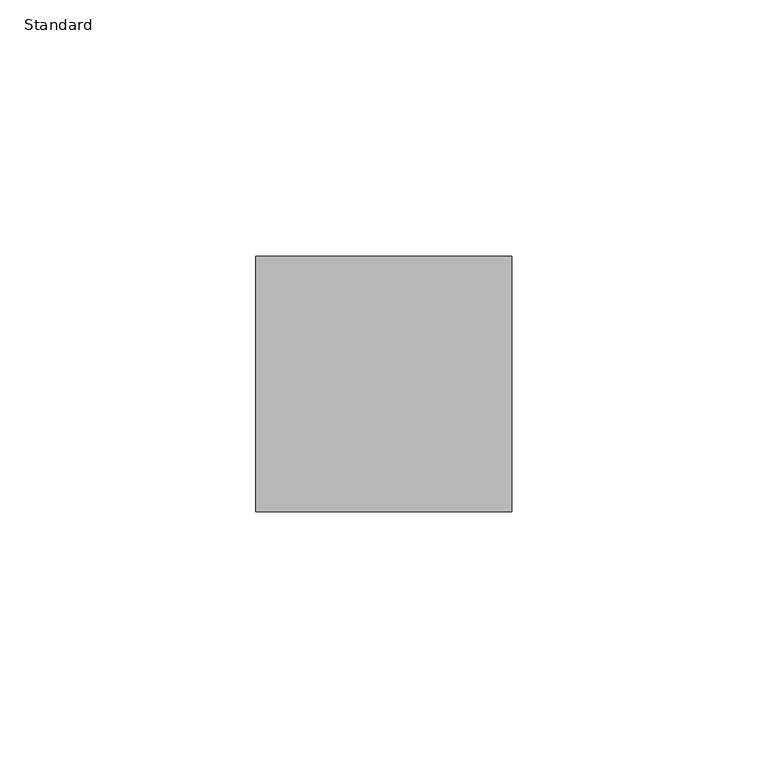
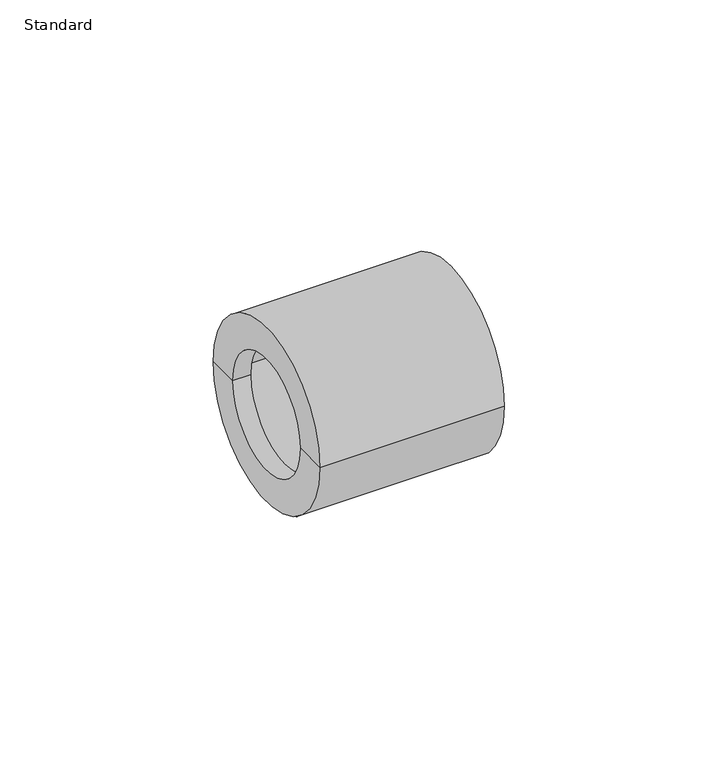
"""IFC4 building model written with IfcOpenShell, lengths in millimetres: pipe fitting geometry, Durapipe_PipeFitting_PVC_ReducingBush : Standard."""

from ifc_helpers import new_model, si_unit, frame, origin, place, context, project, spatial, polyline, circle_curve, source, transform, mapped, element, save
from ifc_brep_helpers import plane_surface, cylinder_surface, revolved_surface, advanced_brep


def standard_52aa8875(model_context):
    return source(origin(), model_context, "Body", "AdvancedBrep", [
        advanced_brep(
        [(-5.0, -16.0, 0.0), (-5.0, 16.0, 0.0), (-5.0, 25.0, 0.0), (-5.0, -25.0, 0.0), (0.0, -16.0, 0.0), (0.0, 16.0, 0.0), (0.0, -20.0, 0.0), (0.0, 20.0, 0.0), (45.0, -20.0, 0.0), (45.0, 20.0, 0.0), (45.0, -25.0, 0.0), (45.0, 25.0, 0.0)],
        [
            (0, 1, circle_curve(frame((-5.0, 0.0, 0.0), z_axis=(1.0, 0.0, 0.0), x_axis=(0.0, 1.0, 0.0)), 16.0)),
            (1, 2),
            (2, 3, circle_curve(frame((-5.0, 0.0, 0.0), z_axis=(-1.0, 0.0, 0.0), x_axis=(0.0, 1.0, 0.0)), 25.0)),
            (3, 0),
            (1, 0, circle_curve(frame((-5.0, 0.0, 0.0), z_axis=(1.0, 0.0, 0.0), x_axis=(0.0, 1.0, 0.0)), 16.0)),
            (3, 2, circle_curve(frame((-5.0, 0.0, 0.0), z_axis=(-1.0, 0.0, 0.0), x_axis=(0.0, 1.0, 0.0)), 25.0)),
            (4, 5, circle_curve(frame((0.0, 0.0, 0.0), z_axis=(1.0, 0.0, 0.0), x_axis=(0.0, 1.0, 0.0)), 16.0)),
            (5, 1),
            (0, 4),
            (5, 4, circle_curve(frame((0.0, 0.0, 0.0), z_axis=(1.0, 0.0, 0.0), x_axis=(0.0, 1.0, 0.0)), 16.0)),
            (6, 7, circle_curve(frame((0.0, 0.0, 0.0), z_axis=(1.0, 0.0, 0.0), x_axis=(0.0, 1.0, 0.0)), 20.0)),
            (7, 5),
            (4, 6),
            (7, 6, circle_curve(frame((0.0, 0.0, 0.0), z_axis=(1.0, 0.0, 0.0), x_axis=(0.0, 1.0, 0.0)), 20.0)),
            (8, 9, circle_curve(frame((45.0, 0.0, 0.0), z_axis=(1.0, 0.0, 0.0), x_axis=(0.0, 1.0, 0.0)), 20.0)),
            (9, 7),
            (6, 8),
            (9, 8, circle_curve(frame((45.0, 0.0, 0.0), z_axis=(1.0, 0.0, 0.0), x_axis=(0.0, 1.0, 0.0)), 20.0)),
            (10, 11, circle_curve(frame((45.0, 0.0, 0.0), z_axis=(1.0, 0.0, 0.0), x_axis=(0.0, 1.0, 0.0)), 25.0)),
            (11, 9),
            (8, 10),
            (11, 10, circle_curve(frame((45.0, 0.0, 0.0), z_axis=(1.0, 0.0, 0.0), x_axis=(0.0, 1.0, 0.0)), 25.0)),
            (2, 11),
            (10, 3),
        ],
        [
            plane_surface(frame((-5.0, 0.0, 0.0), z_axis=(-1.0, 0.0, 0.0), x_axis=(0.0, 1.0, 0.0))),
            revolved_surface(polyline([(-5.0, 16.0, 0.0), (0.0, 16.0, 0.0)]), (2031.0, 0.0, 0.0), (-1.0, 0.0, 0.0)),
            plane_surface(frame((0.0, 0.0, 0.0), z_axis=(1.0, 0.0, 0.0), x_axis=(0.0, 1.0, 0.0))),
            revolved_surface(polyline([(0.0, 20.0, 0.0), (45.0, 20.0, 0.0)]), (2031.0, 0.0, 0.0), (-1.0, 0.0, 0.0)),
            plane_surface(frame((45.0, 0.0, 0.0), z_axis=(1.0, 0.0, 0.0), x_axis=(0.0, 1.0, 0.0))),
            cylinder_surface(frame((2031.0, 0.0, 0.0), z_axis=(-1.0, 0.0, 0.0), x_axis=(0.0, 1.0, 0.0)), 25.0),
        ],
        [
            (0, [[1, 2, 3, 4]]),
            (0, [[5, -4, 6, -2]]),
            (1, [[7, 8, -1, 9]]),
            (1, [[10, -9, -5, -8]]),
            (2, [[11, 12, -7, 13]]),
            (2, [[14, -13, -10, -12]]),
            (3, [[15, 16, -11, 17]]),
            (3, [[18, -17, -14, -16]]),
            (4, [[19, 20, -15, 21]]),
            (4, [[22, -21, -18, -20]]),
            (5, [[-3, 23, -19, 24]]),
            (5, [[-6, -24, -22, -23]]),
        ],
    ),
    ])


if __name__ == "__main__":
    model = new_model("IFC4")
    model_context = context("Model", 3, world=origin())
    ifc_project = project(units=[si_unit("LENGTHUNIT", "METRE", prefix="MILLI")], contexts=[model_context])
    site = spatial("IfcSite", under=ifc_project)
    building = spatial("IfcBuilding", under=site)
    placement = place(None, origin())
    standard_shape = standard_52aa8875(model_context)
    element("IfcPipeFitting", 1, ObjectType="Durapipe_PipeFitting_PVC_ReducingBush : Standard", at=placement, inside=building, context=model_context, shape_type="MappedRepresentation", body=[
        mapped(standard_shape, transform((0.0, 0.0, 0.0), x_axis=(1.0, 0.0, 0.0), y_axis=(0.0, 1.0, 0.0), z_axis=(0.0, 0.0, 1.0))),
    ])
    save(model, "model.ifc")
